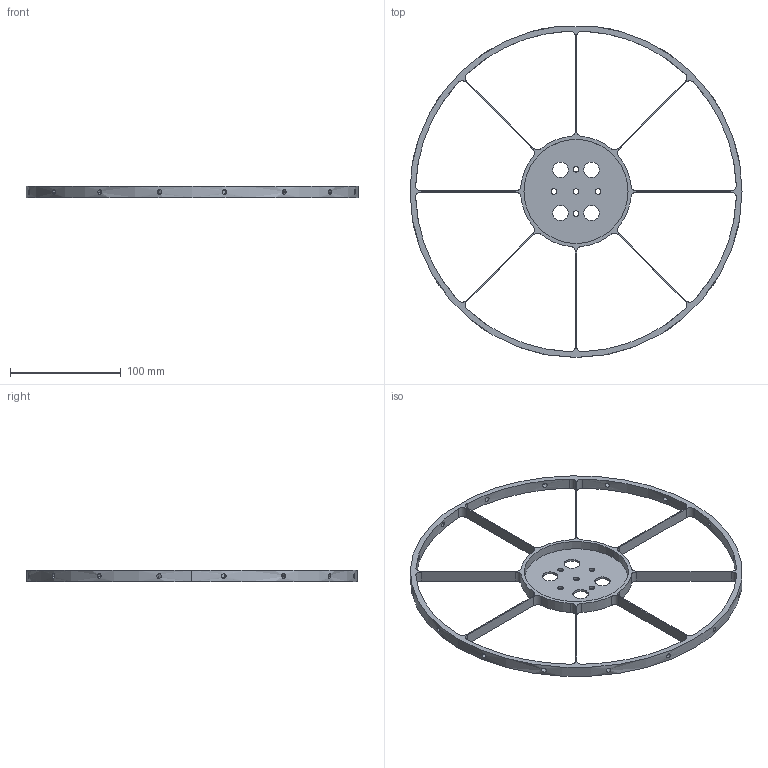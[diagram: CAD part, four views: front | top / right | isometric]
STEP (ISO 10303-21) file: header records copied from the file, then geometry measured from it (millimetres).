
FILE_DESCRIPTION (( 'STEP AP203' ), '1' );
FILE_NAME ('instrument_to_shelter_low_119.STEP', '2024-07-01T09:08:57', ( '' ), ( '' ), 'SwSTEP 2.0', 'SolidWorks 2021', '' );
FILE_SCHEMA (( 'CONFIG_CONTROL_DESIGN' ));
Length unit declared in the file: millimetre
Products named in the file (1): instrument_to_shelter_low_119
Bounding box: 300 x 299 x 10 mm (x, y, z)
Volume: 75825 mm3; surface area: 64883.2 mm2
Topology: 1 solids, 1 shells, 129 faces, 378 edges, 252 vertices
Faces by surface type: cylinder 109, plane 20
Entity records: 6283 total; most frequent: CARTESIAN_POINT 2616, ORIENTED_EDGE 756, DIRECTION 728, EDGE_CURVE 378, AXIS2_PLACEMENT_3D 284, VERTEX_POINT 252, EDGE_LOOP 196, VECTOR 160
